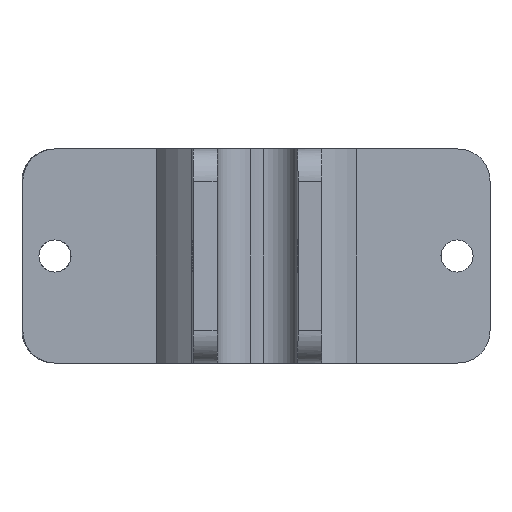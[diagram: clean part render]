
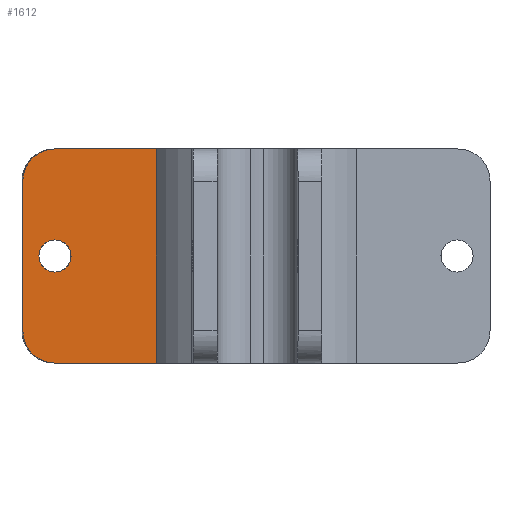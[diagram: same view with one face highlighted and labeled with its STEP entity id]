
A CAD part, front view. The second image highlights one B-rep face of the part: STEP entity #1612.
In plain terms, the highlighted planar face has unit normal (0, -1, 0).
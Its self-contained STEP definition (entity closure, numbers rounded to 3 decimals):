
#22 = ORIENTED_EDGE ( 'NONE', *, *, #444, .F. ) ;
#27 = EDGE_LOOP ( 'NONE', ( #276, #1086, #2601, #86, #2122, #473 ) ) ;
#59 = EDGE_CURVE ( 'NONE', #1122, #522, #759, .T. ) ;
#72 = VECTOR ( 'NONE', #1328, 1000. ) ;
#86 = ORIENTED_EDGE ( 'NONE', *, *, #59, .T. ) ;
#109 = DIRECTION ( 'NONE',  ( 0., 0., -1. ) ) ;
#192 = CARTESIAN_POINT ( 'NONE',  ( -16.382, -7.028, 8.5 ) ) ;
#269 = PLANE ( 'NONE',  #1114 ) ;
#276 = ORIENTED_EDGE ( 'NONE', *, *, #445, .F. ) ;
#285 = CARTESIAN_POINT ( 'NONE',  ( -19.382, -7.028, 1.243 ) ) ;
#388 = CARTESIAN_POINT ( 'NONE',  ( -19.382, -7.028, 20. ) ) ;
#412 = CARTESIAN_POINT ( 'NONE',  ( -6.94, -7.028, 20. ) ) ;
#416 = LINE ( 'NONE', #388, #581 ) ;
#438 = VECTOR ( 'NONE', #999, 1000. ) ;
#441 = LINE ( 'NONE', #1752, #72 ) ;
#444 = EDGE_CURVE ( 'NONE', #1742, #1432, #2127, .T. ) ;
#445 = EDGE_CURVE ( 'NONE', #2822, #1726, #1195, .T. ) ;
#473 = ORIENTED_EDGE ( 'NONE', *, *, #652, .F. ) ;
#477 = VERTEX_POINT ( 'NONE', #2040 ) ;
#502 = CARTESIAN_POINT ( 'NONE',  ( -18.138, -7.028, 0. ) ) ;
#522 = VERTEX_POINT ( 'NONE', #1427 ) ;
#540 = DIRECTION ( 'NONE',  ( 0., -1., 0. ) ) ;
#555 = CARTESIAN_POINT ( 'NONE',  ( -19.382, -7.028, 17. ) ) ;
#581 = VECTOR ( 'NONE', #2379, 1000. ) ;
#595 = LINE ( 'NONE', #2737, #438 ) ;
#597 = CARTESIAN_POINT ( 'NONE',  ( -19.382, -7.028, 17. ) ) ;
#652 = EDGE_CURVE ( 'NONE', #1726, #477, #595, .T. ) ;
#671 = DIRECTION ( 'NONE',  ( 0., 0., 1. ) ) ;
#734 = ORIENTED_EDGE ( 'NONE', *, *, #2520, .F. ) ;
#759 =( BOUNDED_CURVE ( )  B_SPLINE_CURVE ( 3, ( #1833, #285, #502, #2045 ),
 .UNSPECIFIED., .F., .F. ) 
 B_SPLINE_CURVE_WITH_KNOTS ( ( 4, 4 ),
 ( 0., 1.571 ),
 .UNSPECIFIED. ) 
 CURVE ( )  GEOMETRIC_REPRESENTATION_ITEM ( )  RATIONAL_B_SPLINE_CURVE ( ( 1., 0.805, 0.805, 1. ) ) 
 REPRESENTATION_ITEM ( '' )  );
#891 = AXIS2_PLACEMENT_3D ( 'NONE', #1384, #540, #109 ) ;
#914 = EDGE_LOOP ( 'NONE', ( #22, #734 ) ) ;
#999 = DIRECTION ( 'NONE',  ( 0., 0., -1. ) ) ;
#1019 = EDGE_CURVE ( 'NONE', #1821, #1122, #416, .T. ) ;
#1073 = CIRCLE ( 'NONE', #2038, 1.5 ) ;
#1086 = ORIENTED_EDGE ( 'NONE', *, *, #1670, .T. ) ;
#1093 = DIRECTION ( 'NONE',  ( 0., 1., 0. ) ) ;
#1114 = AXIS2_PLACEMENT_3D ( 'NONE', #1138, #1093, #671 ) ;
#1122 = VERTEX_POINT ( 'NONE', #1786 ) ;
#1138 = CARTESIAN_POINT ( 'NONE',  ( -19.382, -7.028, 20. ) ) ;
#1195 = LINE ( 'NONE', #1795, #2621 ) ;
#1220 =( BOUNDED_CURVE ( )  B_SPLINE_CURVE ( 3, ( #2465, #1871, #2279, #555 ),
 .UNSPECIFIED., .F., .F. ) 
 B_SPLINE_CURVE_WITH_KNOTS ( ( 4, 4 ),
 ( 1.571, 3.142 ),
 .UNSPECIFIED. ) 
 CURVE ( )  GEOMETRIC_REPRESENTATION_ITEM ( )  RATIONAL_B_SPLINE_CURVE ( ( 1., 0.805, 0.805, 1. ) ) 
 REPRESENTATION_ITEM ( '' )  );
#1328 = DIRECTION ( 'NONE',  ( 1., 0., 0. ) ) ;
#1384 = CARTESIAN_POINT ( 'NONE',  ( -16.382, -7.028, 10. ) ) ;
#1427 = CARTESIAN_POINT ( 'NONE',  ( -16.379, -7.028, 0. ) ) ;
#1432 = VERTEX_POINT ( 'NONE', #2579 ) ;
#1574 = EDGE_CURVE ( 'NONE', #522, #477, #441, .T. ) ;
#1612 = ADVANCED_FACE ( 'NONE', ( #2635, #2227 ), #269, .F. ) ;
#1670 = EDGE_CURVE ( 'NONE', #2822, #1821, #1220, .T. ) ;
#1726 = VERTEX_POINT ( 'NONE', #412 ) ;
#1742 = VERTEX_POINT ( 'NONE', #192 ) ;
#1752 = CARTESIAN_POINT ( 'NONE',  ( -19.382, -7.028, 0. ) ) ;
#1786 = CARTESIAN_POINT ( 'NONE',  ( -19.382, -7.028, 3. ) ) ;
#1795 = CARTESIAN_POINT ( 'NONE',  ( -19.382, -7.028, 20. ) ) ;
#1821 = VERTEX_POINT ( 'NONE', #597 ) ;
#1833 = CARTESIAN_POINT ( 'NONE',  ( -19.382, -7.028, 3. ) ) ;
#1871 = CARTESIAN_POINT ( 'NONE',  ( -18.138, -7.028, 20. ) ) ;
#2009 = DIRECTION ( 'NONE',  ( 1., 0., 0. ) ) ;
#2038 = AXIS2_PLACEMENT_3D ( 'NONE', #2784, #2094, #2116 ) ;
#2040 = CARTESIAN_POINT ( 'NONE',  ( -6.94, -7.028, 0. ) ) ;
#2045 = CARTESIAN_POINT ( 'NONE',  ( -16.379, -7.028, 0. ) ) ;
#2094 = DIRECTION ( 'NONE',  ( 0., -1., 0. ) ) ;
#2116 = DIRECTION ( 'NONE',  ( 0., 0., -1. ) ) ;
#2122 = ORIENTED_EDGE ( 'NONE', *, *, #1574, .T. ) ;
#2127 = CIRCLE ( 'NONE', #891, 1.5 ) ;
#2227 = FACE_OUTER_BOUND ( 'NONE', #27, .T. ) ;
#2279 = CARTESIAN_POINT ( 'NONE',  ( -19.382, -7.028, 18.757 ) ) ;
#2379 = DIRECTION ( 'NONE',  ( 0., 0., -1. ) ) ;
#2465 = CARTESIAN_POINT ( 'NONE',  ( -16.379, -7.028, 20. ) ) ;
#2497 = CARTESIAN_POINT ( 'NONE',  ( -16.379, -7.028, 20. ) ) ;
#2520 = EDGE_CURVE ( 'NONE', #1432, #1742, #1073, .T. ) ;
#2579 = CARTESIAN_POINT ( 'NONE',  ( -16.382, -7.028, 11.5 ) ) ;
#2601 = ORIENTED_EDGE ( 'NONE', *, *, #1019, .T. ) ;
#2621 = VECTOR ( 'NONE', #2009, 1000. ) ;
#2635 = FACE_BOUND ( 'NONE', #914, .T. ) ;
#2737 = CARTESIAN_POINT ( 'NONE',  ( -6.94, -7.028, 20. ) ) ;
#2784 = CARTESIAN_POINT ( 'NONE',  ( -16.382, -7.028, 10. ) ) ;
#2822 = VERTEX_POINT ( 'NONE', #2497 ) ;
